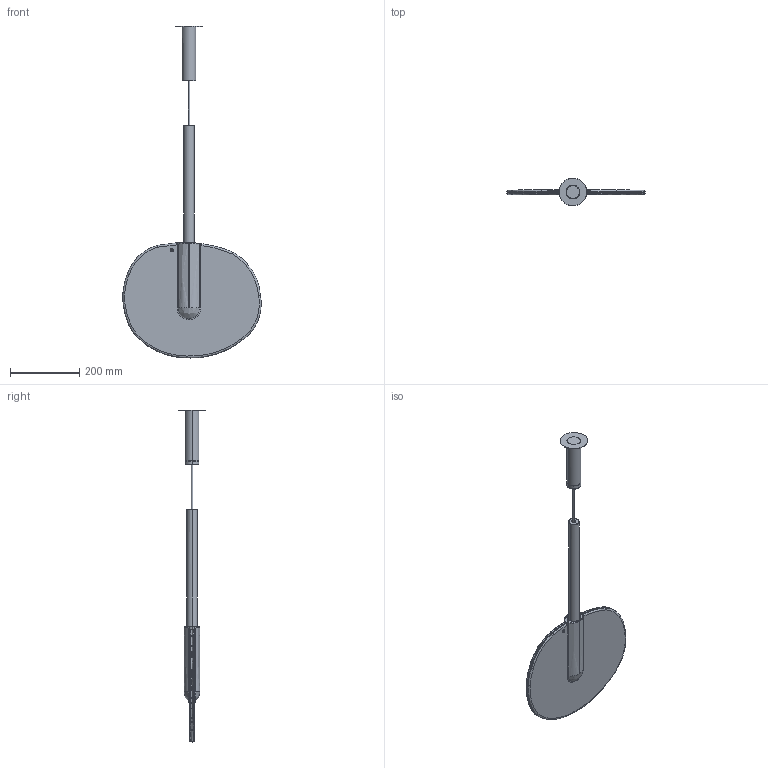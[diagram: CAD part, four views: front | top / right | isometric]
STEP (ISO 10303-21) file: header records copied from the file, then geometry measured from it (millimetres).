
FILE_DESCRIPTION(/* description */ (''),/* implementation_level */ '2;1');
FILE_NAME(/* name */ 'Lollipop Pendant D',/* time_stamp */ '2019-01-25T10:53:58+01:00',/* author */ (''),/* organization */ (''),/* preprocessor_version */ 'ST-DEVELOPER v15',/* originating_system */ '',/* authorisation */ '');
FILE_SCHEMA (('AUTOMOTIVE_DESIGN'));
Length unit declared in the file: millimetre
Products named in the file (1): Document
Bounding box: 400.78 x 79.9 x 961.39 mm (x, y, z)
Volume: 1523200 mm3; surface area: 607971 mm2
Topology: 9 solids, 9 shells, 458 faces, 1196 edges, 756 vertices
Faces by surface type: bspline 458
Entity records: 33903 total; most frequent: CARTESIAN_POINT 18620, B_SPLINE_CURVE_WITH_KNOTS 3195, ORIENTED_EDGE 2376, PCURVE 2376, DEFINITIONAL_REPRESENTATION 2376, SURFACE_CURVE 1188, EDGE_CURVE 1188, VERTEX_POINT 756
